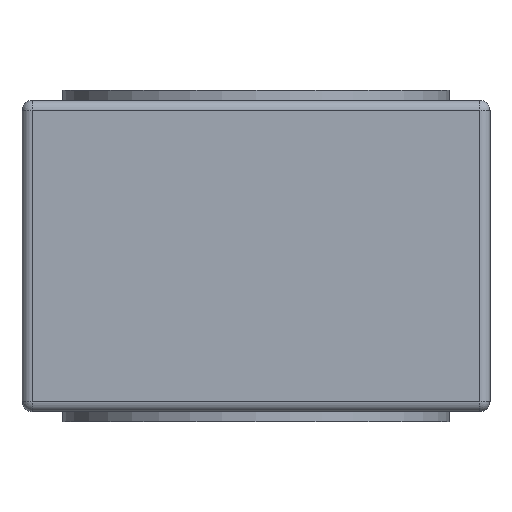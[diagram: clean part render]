
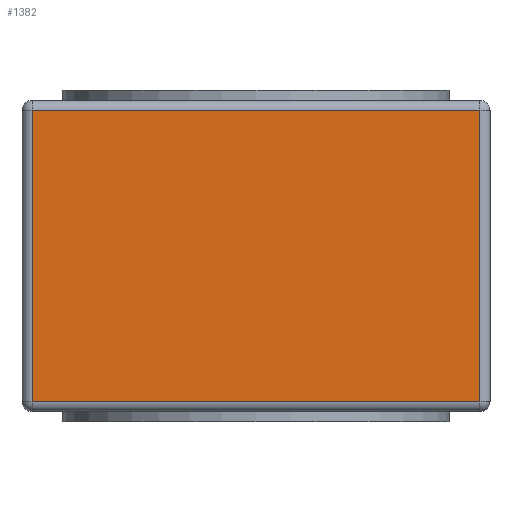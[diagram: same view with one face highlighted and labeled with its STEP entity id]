
A CAD part, front view. The second image highlights one B-rep face of the part: STEP entity #1382.
In plain terms, the highlighted planar face has unit normal (0, -1, 0).
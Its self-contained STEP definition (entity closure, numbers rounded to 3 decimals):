
#195=FACE_OUTER_BOUND('',#288,.T.);
#288=EDGE_LOOP('',(#1093,#1094,#1095,#1096));
#354=LINE('',#2134,#487);
#360=LINE('',#2152,#493);
#363=LINE('',#2193,#496);
#366=LINE('',#2198,#499);
#487=VECTOR('',#1697,10.);
#493=VECTOR('',#1717,10.);
#496=VECTOR('',#1768,10.);
#499=VECTOR('',#1775,10.);
#613=VERTEX_POINT('',#2125);
#616=VERTEX_POINT('',#2132);
#621=VERTEX_POINT('',#2151);
#633=VERTEX_POINT('',#2185);
#742=EDGE_CURVE('',#616,#613,#354,.T.);
#751=EDGE_CURVE('',#613,#621,#360,.T.);
#771=EDGE_CURVE('',#633,#616,#363,.T.);
#774=EDGE_CURVE('',#621,#633,#366,.T.);
#1093=ORIENTED_EDGE('',*,*,#742,.F.);
#1094=ORIENTED_EDGE('',*,*,#771,.F.);
#1095=ORIENTED_EDGE('',*,*,#774,.F.);
#1096=ORIENTED_EDGE('',*,*,#751,.F.);
#1310=PLANE('',#1566);
#1382=ADVANCED_FACE('',(#195),#1310,.T.);
#1566=AXIS2_PLACEMENT_3D('',#2272,#1863,#1864);
#1697=DIRECTION('',(0.,0.,1.));
#1717=DIRECTION('',(1.,0.,0.));
#1768=DIRECTION('',(-1.,0.,0.));
#1775=DIRECTION('',(0.,0.,-1.));
#1863=DIRECTION('center_axis',(0.,-1.,0.));
#1864=DIRECTION('ref_axis',(1.,0.,0.));
#2125=CARTESIAN_POINT('',(0.5,-27.8,14.8));
#2132=CARTESIAN_POINT('',(0.5,-27.8,0.5));
#2134=CARTESIAN_POINT('',(0.5,-27.8,0.));
#2151=CARTESIAN_POINT('',(22.5,-27.8,14.8));
#2152=CARTESIAN_POINT('',(5.75,-27.8,14.8));
#2185=CARTESIAN_POINT('',(22.5,-27.8,0.5));
#2193=CARTESIAN_POINT('',(5.75,-27.8,0.5));
#2198=CARTESIAN_POINT('',(22.5,-27.8,0.));
#2272=CARTESIAN_POINT('Origin',(0.,-27.8,0.));
